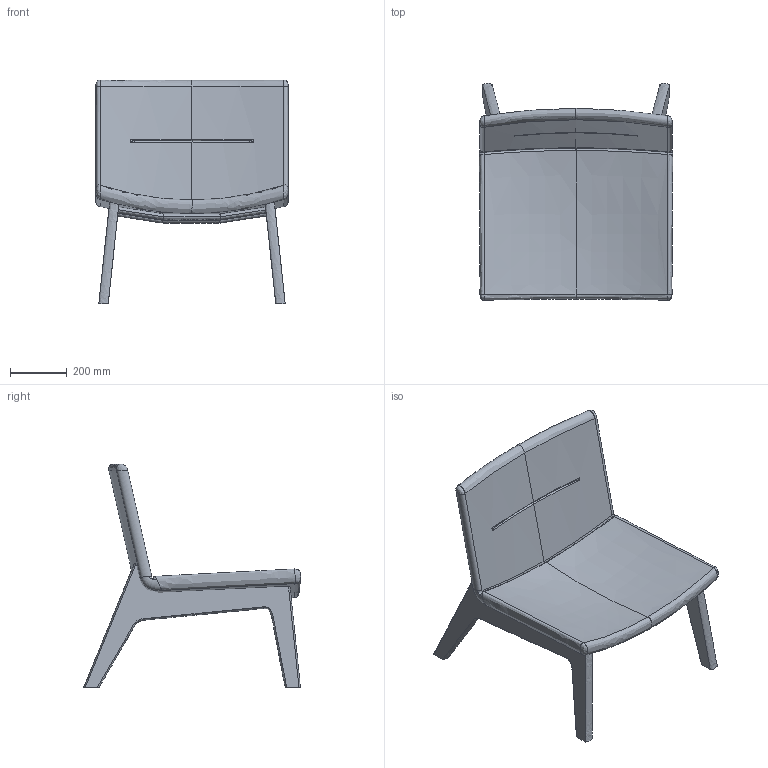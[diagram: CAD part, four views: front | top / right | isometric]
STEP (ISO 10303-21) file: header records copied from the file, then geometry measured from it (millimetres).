
FILE_DESCRIPTION(/* description */ (''),/* implementation_level */ '2;1');
FILE_NAME(/* name */ 'OSLO_L~1',/* time_stamp */ '2020-01-31T17:19:07+01:00',/* author */ (''),/* organization */ (''),/* preprocessor_version */ 'ST-DEVELOPER v16.5',/* originating_system */ '',/* authorisation */ '');
FILE_SCHEMA (('AUTOMOTIVE_DESIGN'));
Length unit declared in the file: millimetre
Products named in the file (1): Document
Bounding box: 683.24 x 765.74 x 788.96 mm (x, y, z)
Surface area: 2065477 mm2 (no closed solid volume)
Topology: 0 solids, 63 shells, 124 faces, 449 edges, 367 vertices
Faces by surface type: bspline 124
Entity records: 16283 total; most frequent: CARTESIAN_POINT 13450, ORIENTED_EDGE 568, EDGE_CURVE 436, VERTEX_POINT 365, B_SPLINE_CURVE_WITH_KNOTS 265, EDGE_LOOP 132, ADVANCED_FACE 124, FACE_OUTER_BOUND 124
